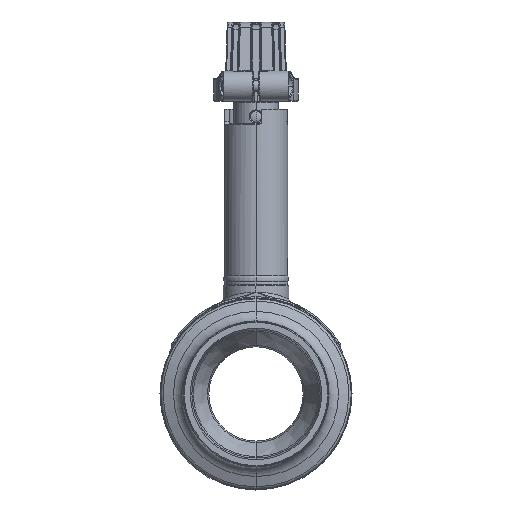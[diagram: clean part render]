
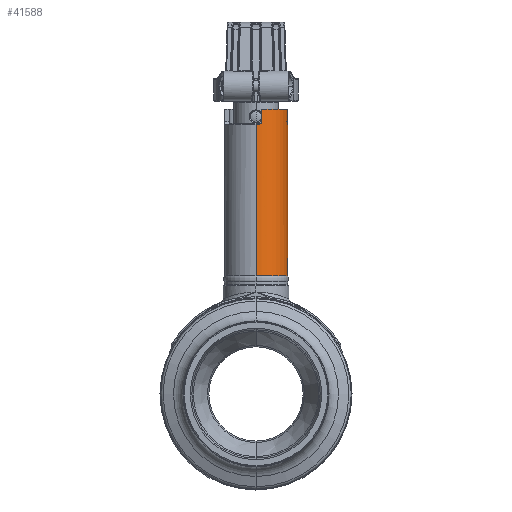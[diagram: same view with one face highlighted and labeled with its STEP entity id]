
A CAD part, left-side view. The second image highlights one B-rep face of the part: STEP entity #41588.
In plain terms, the highlighted cylindrical face has radius 16.85 mm (diameter 33.7 mm), a partial arc.
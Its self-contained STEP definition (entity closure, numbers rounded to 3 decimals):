
#11831=CARTESIAN_POINT('',(-16.581,-3.,144.5));
#11832=CARTESIAN_POINT('',(-16.581,-3.,144.465));
#11833=CARTESIAN_POINT('',(-16.581,-2.997,
144.394));
#11834=CARTESIAN_POINT('',(-16.583,-2.986,
144.288));
#11835=CARTESIAN_POINT('',(-16.587,-2.968,
144.184));
#11836=CARTESIAN_POINT('',(-16.591,-2.942,
144.081));
#11837=CARTESIAN_POINT('',(-16.597,-2.908,
143.98));
#11838=CARTESIAN_POINT('',(-16.604,-2.868,
143.881));
#11839=CARTESIAN_POINT('',(-16.612,-2.82,
143.785));
#11840=CARTESIAN_POINT('',(-16.621,-2.766,
143.693));
#11841=CARTESIAN_POINT('',(-16.631,-2.705,
143.605));
#11842=CARTESIAN_POINT('',(-16.642,-2.638,
143.521));
#11843=CARTESIAN_POINT('',(-16.654,-2.565,
143.442));
#11844=CARTESIAN_POINT('',(-16.666,-2.487,
143.368));
#11845=CARTESIAN_POINT('',(-16.678,-2.403,
143.301));
#11846=CARTESIAN_POINT('',(-16.69,-2.314,
143.239));
#11847=CARTESIAN_POINT('',(-16.703,-2.222,
143.184));
#11848=CARTESIAN_POINT('',(-16.715,-2.126,
143.135));
#11849=CARTESIAN_POINT('',(-16.728,-2.026,
143.094));
#11850=CARTESIAN_POINT('',(-16.74,-1.924,
143.06));
#11851=CARTESIAN_POINT('',(-16.752,-1.82,
143.033));
#11852=CARTESIAN_POINT('',(-16.763,-1.714,
143.014));
#11853=CARTESIAN_POINT('',(-16.773,-1.607,
143.003));
#11854=CARTESIAN_POINT('',(-16.78,-1.536,143.));
#11855=CARTESIAN_POINT('',(-16.783,-1.5,143.));
#11866=CARTESIAN_POINT('',(0.,0.,151.));
#11867=DIRECTION('',(0.,0.,-1.));
#11868=DIRECTION('',(-0.178,-0.984,0.));
#11869=AXIS2_PLACEMENT_3D('',#11866,#11867,#11868);
#11909=CARTESIAN_POINT('',(-1.5,-16.783,143.));
#11910=CARTESIAN_POINT('',(-1.536,-16.78,143.));
#11911=CARTESIAN_POINT('',(-1.607,-16.773,
143.003));
#11912=CARTESIAN_POINT('',(-1.714,-16.763,
143.014));
#11913=CARTESIAN_POINT('',(-1.82,-16.752,
143.033));
#11914=CARTESIAN_POINT('',(-1.924,-16.74,
143.06));
#11915=CARTESIAN_POINT('',(-2.026,-16.728,
143.094));
#11916=CARTESIAN_POINT('',(-2.126,-16.715,
143.135));
#11917=CARTESIAN_POINT('',(-2.222,-16.703,
143.184));
#11918=CARTESIAN_POINT('',(-2.314,-16.69,
143.239));
#11919=CARTESIAN_POINT('',(-2.403,-16.678,
143.301));
#11920=CARTESIAN_POINT('',(-2.487,-16.666,
143.368));
#11921=CARTESIAN_POINT('',(-2.565,-16.654,
143.442));
#11922=CARTESIAN_POINT('',(-2.638,-16.642,
143.521));
#11923=CARTESIAN_POINT('',(-2.705,-16.631,
143.605));
#11924=CARTESIAN_POINT('',(-2.766,-16.621,
143.693));
#11925=CARTESIAN_POINT('',(-2.82,-16.612,
143.785));
#11926=CARTESIAN_POINT('',(-2.868,-16.604,
143.881));
#11927=CARTESIAN_POINT('',(-2.908,-16.597,
143.98));
#11928=CARTESIAN_POINT('',(-2.942,-16.591,
144.081));
#11929=CARTESIAN_POINT('',(-2.968,-16.587,
144.184));
#11930=CARTESIAN_POINT('',(-2.986,-16.583,
144.288));
#11931=CARTESIAN_POINT('',(-2.997,-16.581,
144.394));
#11932=CARTESIAN_POINT('',(-3.,-16.581,144.465));
#11933=CARTESIAN_POINT('',(-3.,-16.581,144.5));
#11935=CARTESIAN_POINT('',(0.,0.,62.65));
#11936=DIRECTION('',(0.,0.,-1.));
#11937=DIRECTION('',(1.,0.,0.));
#11938=AXIS2_PLACEMENT_3D('',#11935,#11936,#11937);
#11940=CARTESIAN_POINT('',(0.,0.,143.));
#11941=DIRECTION('',(0.,0.,-1.));
#11942=DIRECTION('',(-0.996,-0.089,0.));
#11943=AXIS2_PLACEMENT_3D('',#11940,#11941,#11942);
#11945=DIRECTION('',(0.,0.,-1.));
#11946=VECTOR('',#11945,6.5);
#11947=CARTESIAN_POINT('',(-16.581,-3.,151.));
#11948=LINE('',#11947,#11946);
#11949=DIRECTION('',(0.,0.,-1.));
#11950=VECTOR('',#11949,6.5);
#11951=CARTESIAN_POINT('',(-3.,-16.581,151.));
#11952=LINE('',#11951,#11950);
#11953=CARTESIAN_POINT('',(0.,0.,143.));
#11954=DIRECTION('',(0.,0.,-1.));
#11955=DIRECTION('',(1.,0.,0.));
#11956=AXIS2_PLACEMENT_3D('',#11953,#11954,#11955);
#12001=DIRECTION('',(0.,0.,1.));
#12002=VECTOR('',#12001,80.35);
#12003=CARTESIAN_POINT('',(16.85,0.,62.65));
#12004=LINE('',#12003,#12002);
#12023=DIRECTION('',(0.,0.,1.));
#12024=VECTOR('',#12023,80.35);
#12025=CARTESIAN_POINT('',(-16.85,0.,62.65));
#12026=LINE('',#12025,#12024);
#19549=CARTESIAN_POINT('',(-3.,-16.581,151.));
#19550=CARTESIAN_POINT('',(-16.581,-3.,151.));
#19551=VERTEX_POINT('',#19549);
#19552=VERTEX_POINT('',#19550);
#19585=CARTESIAN_POINT('',(16.85,0.,143.));
#19586=CARTESIAN_POINT('',(-1.5,-16.783,143.));
#19587=VERTEX_POINT('',#19585);
#19588=VERTEX_POINT('',#19586);
#19589=CARTESIAN_POINT('',(-16.783,-1.5,143.));
#19590=CARTESIAN_POINT('',(-16.85,0.,143.));
#19591=VERTEX_POINT('',#19589);
#19592=VERTEX_POINT('',#19590);
#19621=CARTESIAN_POINT('',(-3.,-16.581,144.5));
#19622=VERTEX_POINT('',#19621);
#19623=CARTESIAN_POINT('',(-16.581,-3.,144.5));
#19624=VERTEX_POINT('',#19623);
#19876=CARTESIAN_POINT('',(16.85,0.,62.65));
#19877=CARTESIAN_POINT('',(-16.85,0.,62.65));
#19878=VERTEX_POINT('',#19876);
#19879=VERTEX_POINT('',#19877);
#41567=CARTESIAN_POINT('',(0.,0.,155.5));
#41568=DIRECTION('',(0.,0.,-1.));
#41569=DIRECTION('',(-1.,0.,0.));
#41570=AXIS2_PLACEMENT_3D('',#41567,#41568,#41569);
#41571=CYLINDRICAL_SURFACE('',#41570,16.85);
#41573=ORIENTED_EDGE('',*,*,#41572,.T.);
#41575=ORIENTED_EDGE('',*,*,#41574,.T.);
#41576=ORIENTED_EDGE('',*,*,#41484,.F.);
#41577=ORIENTED_EDGE('',*,*,#41501,.F.);
#41579=ORIENTED_EDGE('',*,*,#41578,.F.);
#41580=ORIENTED_EDGE('',*,*,#41533,.F.);
#41581=ORIENTED_EDGE('',*,*,#41548,.T.);
#41582=ORIENTED_EDGE('',*,*,#41561,.F.);
#41583=ORIENTED_EDGE('',*,*,#41391,.F.);
#41585=ORIENTED_EDGE('',*,*,#41584,.F.);
#41586=EDGE_LOOP('',(#41573,#41575,#41576,#41577,#41579,#41580,#41581,#41582,
#41583,#41585));
#41587=FACE_OUTER_BOUND('',#41586,.F.);
#11856=B_SPLINE_CURVE_WITH_KNOTS('',3,(#11831,#11832,#11833,#11834,#11835,
#11836,#11837,#11838,#11839,#11840,#11841,#11842,#11843,#11844,#11845,#11846,
#11847,#11848,#11849,#11850,#11851,#11852,#11853,#11854,#11855),.UNSPECIFIED.,
.F.,.F.,(4,1,1,1,1,1,1,1,1,1,1,1,1,1,1,1,1,1,1,1,1,1,4),(0.,0.045,
0.091,0.136,0.182,0.227,
0.273,0.318,0.364,0.409,
0.455,0.5,0.545,0.591,0.636,
0.682,0.727,0.773,0.818,
0.864,0.909,0.955,1.),.UNSPECIFIED.);
#11870=CIRCLE('',#11869,16.85);
#11934=B_SPLINE_CURVE_WITH_KNOTS('',3,(#11909,#11910,#11911,#11912,#11913,
#11914,#11915,#11916,#11917,#11918,#11919,#11920,#11921,#11922,#11923,#11924,
#11925,#11926,#11927,#11928,#11929,#11930,#11931,#11932,#11933),.UNSPECIFIED.,
.F.,.F.,(4,1,1,1,1,1,1,1,1,1,1,1,1,1,1,1,1,1,1,1,1,1,4),(0.,0.045,
0.091,0.136,0.182,0.227,
0.273,0.318,0.364,0.409,
0.455,0.5,0.545,0.591,0.636,
0.682,0.727,0.773,0.818,
0.864,0.909,0.955,1.),.UNSPECIFIED.);
#11939=CIRCLE('',#11938,16.85);
#11944=CIRCLE('',#11943,16.85);
#11957=CIRCLE('',#11956,16.85);
#41391=EDGE_CURVE('',#19587,#19588,#11957,.T.);
#41484=EDGE_CURVE('',#19591,#19592,#11944,.T.);
#41501=EDGE_CURVE('',#19624,#19591,#11856,.T.);
#41533=EDGE_CURVE('',#19551,#19552,#11870,.T.);
#41548=EDGE_CURVE('',#19551,#19622,#11952,.T.);
#41561=EDGE_CURVE('',#19588,#19622,#11934,.T.);
#41572=EDGE_CURVE('',#19878,#19879,#11939,.T.);
#41574=EDGE_CURVE('',#19879,#19592,#12026,.T.);
#41578=EDGE_CURVE('',#19552,#19624,#11948,.T.);
#41584=EDGE_CURVE('',#19878,#19587,#12004,.T.);
#41588=ADVANCED_FACE('',(#41587),#41571,.T.);
